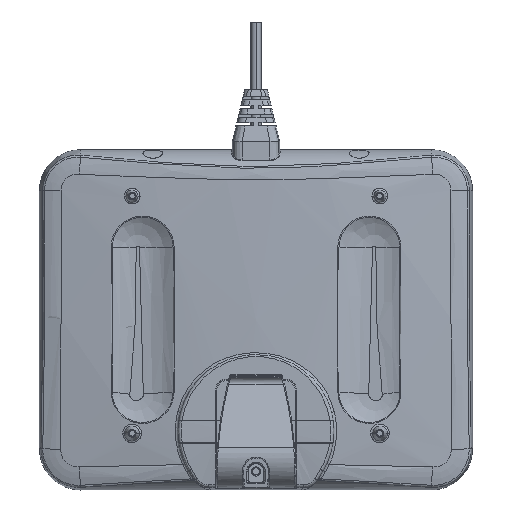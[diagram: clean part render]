
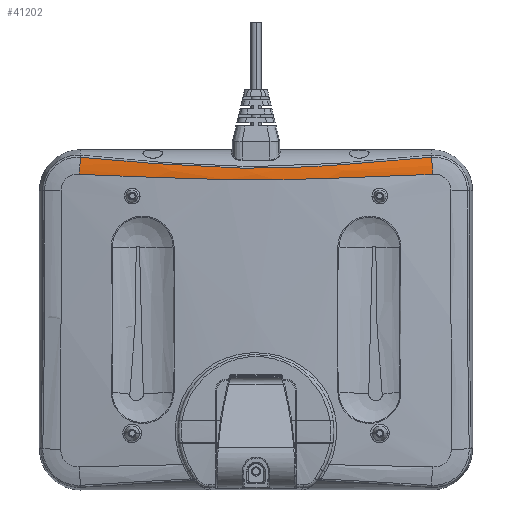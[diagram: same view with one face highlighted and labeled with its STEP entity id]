
A CAD part, front view. The second image highlights one B-rep face of the part: STEP entity #41202.
In plain terms, the highlighted free-form (B-spline) face has degree [3, 3] with [4, 13] control points.
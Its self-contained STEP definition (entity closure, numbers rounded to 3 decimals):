
#5341=CARTESIAN_POINT('',(85.072,-12.038,78.831));
#5343=CARTESIAN_POINT('',(85.072,-12.038,78.831));
#5344=CARTESIAN_POINT('',(80.579,-12.754,78.463));
#5345=CARTESIAN_POINT('',(71.767,-14.053,77.7));
#5346=CARTESIAN_POINT('',(60.258,-15.5,76.676));
#5347=CARTESIAN_POINT('',(46.892,-16.876,75.562));
#5348=CARTESIAN_POINT('',(33.764,-17.863,74.619));
#5349=CARTESIAN_POINT('',(24.86,-18.355,74.114));
#5350=CARTESIAN_POINT('',(12.907,-18.799,73.639));
#5351=CARTESIAN_POINT('',(1.484,-18.944,73.474));
#5352=CARTESIAN_POINT('',(-9.54,-18.86,
73.57));
#5353=CARTESIAN_POINT('',(-21.049,-18.527,
73.935));
#5354=CARTESIAN_POINT('',(-32.972,-17.933,
74.554));
#5355=CARTESIAN_POINT('',(-45.574,-16.977,
75.457));
#5356=CARTESIAN_POINT('',(-54.815,-16.073,
76.219));
#5357=CARTESIAN_POINT('',(-64.349,-14.989,
77.05));
#5358=CARTESIAN_POINT('',(-74.021,-13.713,
77.908));
#5359=CARTESIAN_POINT('',(-81.277,-12.634,
78.525));
#5360=CARTESIAN_POINT('',(-85.048,-12.041,
78.829));
#5362=CARTESIAN_POINT('',(85.072,-12.038,78.831));
#5363=CARTESIAN_POINT('',(85.362,-12.661,76.122));
#5364=CARTESIAN_POINT('',(85.616,-13.003,73.329));
#5365=CARTESIAN_POINT('',(85.825,-13.052,70.543));
#5367=CARTESIAN_POINT('',(85.825,-13.052,70.543));
#5368=CARTESIAN_POINT('',(80.162,-13.9,70.358));
#5369=CARTESIAN_POINT('',(68.61,-15.454,69.89));
#5370=CARTESIAN_POINT('',(50.865,-17.303,69.138));
#5371=CARTESIAN_POINT('',(33.226,-18.588,68.456));
#5372=CARTESIAN_POINT('',(16.301,-19.309,67.987));
#5373=CARTESIAN_POINT('',(0.247,-19.535,
67.798));
#5374=CARTESIAN_POINT('',(-15.876,-19.319,
67.975));
#5375=CARTESIAN_POINT('',(-32.597,-18.623,
68.455));
#5376=CARTESIAN_POINT('',(-50.35,-17.351,
69.109));
#5377=CARTESIAN_POINT('',(-68.434,-15.48,
69.849));
#5378=CARTESIAN_POINT('',(-80.122,-13.906,
70.346));
#5379=CARTESIAN_POINT('',(-85.869,-13.045,
70.546));
#5535=CARTESIAN_POINT('',(-85.048,-12.041,
78.829));
#5536=CARTESIAN_POINT('',(-85.11,-12.248,
77.948));
#5537=CARTESIAN_POINT('',(-85.265,-12.602,
76.155));
#5538=CARTESIAN_POINT('',(-85.53,-12.944,
73.387));
#5539=CARTESIAN_POINT('',(-85.762,-13.034,
71.499));
#5540=CARTESIAN_POINT('',(-85.869,-13.045,
70.546));
#28933=VERTEX_POINT('',#5367);
#28934=VERTEX_POINT('',#5379);
#29000=VERTEX_POINT('',#5341);
#29001=VERTEX_POINT('',#5535);
#41141=CARTESIAN_POINT('',(87.536,-12.8,
70.34));
#41142=CARTESIAN_POINT('',(86.975,-12.886,
70.291));
#41143=CARTESIAN_POINT('',(79.282,-14.06,
69.611));
#41144=CARTESIAN_POINT('',(64.105,-16.041,
68.179));
#41145=CARTESIAN_POINT('',(42.738,-17.999,
66.257));
#41146=CARTESIAN_POINT('',(21.325,-19.153,
64.88));
#41147=CARTESIAN_POINT('',(0.623,-19.529,
64.381));
#41148=CARTESIAN_POINT('',(-20.242,-19.192,
64.843));
#41149=CARTESIAN_POINT('',(-41.587,-18.079,
66.147));
#41150=CARTESIAN_POINT('',(-63.417,-16.13,
68.125));
#41151=CARTESIAN_POINT('',(-79.051,-14.095,
69.604));
#41152=CARTESIAN_POINT('',(-87.032,-12.877,
70.293));
#41153=CARTESIAN_POINT('',(-87.599,-12.79,
70.341));
#41154=CARTESIAN_POINT('',(87.307,-12.766,
73.459));
#41155=CARTESIAN_POINT('',(86.745,-12.855,
73.409));
#41156=CARTESIAN_POINT('',(79.049,-14.056,
72.731));
#41157=CARTESIAN_POINT('',(64.029,-16.082,
71.307));
#41158=CARTESIAN_POINT('',(42.586,-18.123,
69.379));
#41159=CARTESIAN_POINT('',(21.281,-19.32,
68.003));
#41160=CARTESIAN_POINT('',(0.596,-19.711,
67.503));
#41161=CARTESIAN_POINT('',(-20.167,-19.357,
67.966));
#41162=CARTESIAN_POINT('',(-41.442,-18.213,
69.269));
#41163=CARTESIAN_POINT('',(-63.355,-16.168,
71.253));
#41164=CARTESIAN_POINT('',(-78.827,-14.084,
72.724));
#41165=CARTESIAN_POINT('',(-86.783,-12.85,
73.41));
#41166=CARTESIAN_POINT('',(-87.349,-12.761,
73.459));
#41167=CARTESIAN_POINT('',(87.025,-12.372,
76.548));
#41168=CARTESIAN_POINT('',(86.463,-12.462,
76.499));
#41169=CARTESIAN_POINT('',(78.767,-13.691,
75.825));
#41170=CARTESIAN_POINT('',(63.914,-15.76,
74.417));
#41171=CARTESIAN_POINT('',(42.408,-17.882,
72.493));
#41172=CARTESIAN_POINT('',(21.223,-19.121,
71.124));
#41173=CARTESIAN_POINT('',(0.569,-19.528,
70.625));
#41174=CARTESIAN_POINT('',(-20.079,-19.155,
71.087));
#41175=CARTESIAN_POINT('',(-41.272,-17.983,
72.383));
#41176=CARTESIAN_POINT('',(-63.252,-15.843,
74.364));
#41177=CARTESIAN_POINT('',(-78.555,-13.712,
75.818));
#41178=CARTESIAN_POINT('',(-86.481,-12.462,
76.499));
#41179=CARTESIAN_POINT('',(-87.045,-12.372,
76.547));
#41180=CARTESIAN_POINT('',(86.693,-11.623,
79.566));
#41181=CARTESIAN_POINT('',(86.131,-11.715,
79.518));
#41182=CARTESIAN_POINT('',(78.44,-12.968,
78.851));
#41183=CARTESIAN_POINT('',(63.76,-15.079,
77.467));
#41184=CARTESIAN_POINT('',(42.205,-17.28,
75.555));
#41185=CARTESIAN_POINT('',(21.152,-18.558,
74.201));
#41186=CARTESIAN_POINT('',(0.541,-18.981,
73.705));
#41187=CARTESIAN_POINT('',(-19.979,-18.591,
74.162));
#41188=CARTESIAN_POINT('',(-41.078,-17.39,
75.448));
#41189=CARTESIAN_POINT('',(-63.112,-15.159,
77.414));
#41190=CARTESIAN_POINT('',(-78.238,-12.982,
78.843));
#41191=CARTESIAN_POINT('',(-86.131,-11.718,
79.516));
#41192=CARTESIAN_POINT('',(-86.692,-11.627,
79.564));
#41193=(BOUNDED_SURFACE()B_SPLINE_SURFACE(3,3,((#41141,#41142,#41143,#41144,
#41145,#41146,#41147,#41148,#41149,#41150,#41151,#41152,#41153),(#41154,#41155,
#41156,#41157,#41158,#41159,#41160,#41161,#41162,#41163,#41164,#41165,#41166),(
#41167,#41168,#41169,#41170,#41171,#41172,#41173,#41174,#41175,#41176,#41177,
#41178,#41179),(#41180,#41181,#41182,#41183,#41184,#41185,#41186,#41187,#41188,
#41189,#41190,#41191,#41192)),.UNSPECIFIED.,.F.,.F.,.F.)B_SPLINE_SURFACE_WITH_KNOTS((4,4),(4,1,1,1,1,1,1,1,1,1,4),(0.,1.),(-0.01,0.,
0.126,0.255,0.377,0.498,
0.615,0.738,0.869,1.,1.01),
.UNSPECIFIED.)GEOMETRIC_REPRESENTATION_ITEM()RATIONAL_B_SPLINE_SURFACE(((
1.003,1.003,1.003,1.003,
1.003,1.003,1.003,1.003,
1.003,1.003,1.003,1.003,
1.003),(0.999,0.999,0.999,
0.999,0.999,0.999,0.999,
0.999,0.999,0.999,0.999,
0.999,0.999),(0.999,0.999,
0.999,0.999,0.999,0.999,
0.999,0.999,0.999,0.999,
0.999,0.999,0.999),(1.003,
1.003,1.003,1.003,1.003,
1.003,1.003,1.003,1.003,
1.003,1.003,1.003,1.003)))REPRESENTATION_ITEM('')SURFACE());
#41194=ORIENTED_EDGE('',*,*,#41135,.F.);
#41196=ORIENTED_EDGE('',*,*,#41195,.T.);
#41197=ORIENTED_EDGE('',*,*,#39633,.T.);
#41199=ORIENTED_EDGE('',*,*,#41198,.F.);
#41200=EDGE_LOOP('',(#41194,#41196,#41197,#41199));
#41201=FACE_OUTER_BOUND('',#41200,.F.);
#41202=ADVANCED_FACE('',(#41201),#41193,.T.);
#5361=B_SPLINE_CURVE_WITH_KNOTS('',3,(#5343,#5344,#5345,#5346,#5347,#5348,#5349,
#5350,#5351,#5352,#5353,#5354,#5355,#5356,#5357,#5358,#5359,#5360),
.UNSPECIFIED.,.F.,.F.,(4,1,1,1,1,1,1,1,1,1,1,1,1,1,1,4),(0.,0.067,
0.133,0.2,0.267,0.333,0.4,
0.467,0.533,0.6,0.667,0.733,
0.8,0.867,0.933,1.),.UNSPECIFIED.);
#5366=B_SPLINE_CURVE_WITH_KNOTS('',3,(#5362,#5363,#5364,#5365),.UNSPECIFIED.,
.F.,.F.,(4,4),(0.,1.),.UNSPECIFIED.);
#5380=B_SPLINE_CURVE_WITH_KNOTS('',3,(#5367,#5368,#5369,#5370,#5371,#5372,#5373,
#5374,#5375,#5376,#5377,#5378,#5379),.UNSPECIFIED.,.F.,.F.,(4,1,1,1,1,1,1,1,1,1,
4),(0.,0.1,0.2,0.3,0.4,0.5,0.6,0.7,0.8,0.9,1.),
.UNSPECIFIED.);
#5541=B_SPLINE_CURVE_WITH_KNOTS('',3,(#5535,#5536,#5537,#5538,#5539,#5540),
.UNSPECIFIED.,.F.,.F.,(4,1,1,4),(0.,0.333,0.667,1.),
.UNSPECIFIED.);
#39633=EDGE_CURVE('',#28933,#28934,#5380,.T.);
#41135=EDGE_CURVE('',#29000,#29001,#5361,.T.);
#41195=EDGE_CURVE('',#29000,#28933,#5366,.T.);
#41198=EDGE_CURVE('',#29001,#28934,#5541,.T.);
